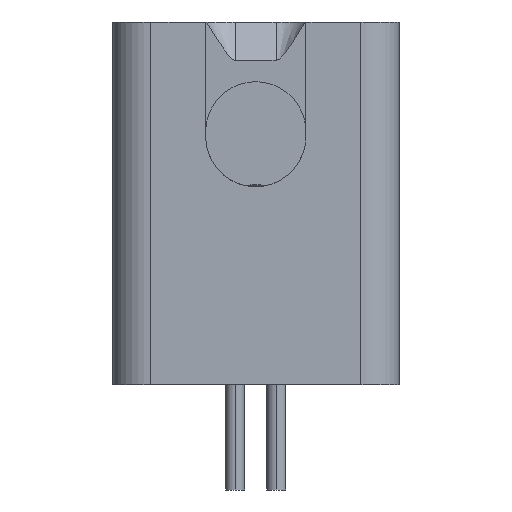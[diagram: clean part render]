
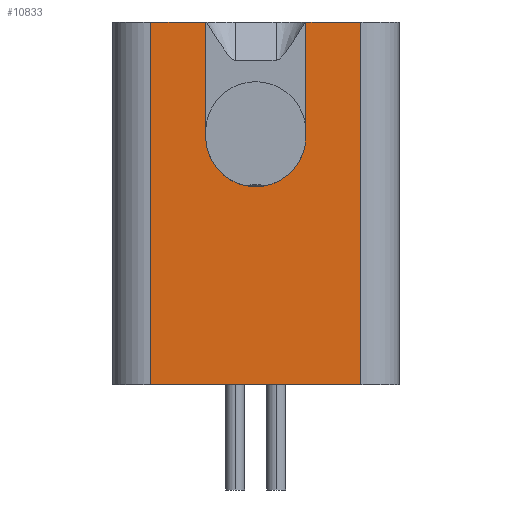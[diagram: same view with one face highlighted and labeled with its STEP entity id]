
A CAD part, left-side view. The second image highlights one B-rep face of the part: STEP entity #10833.
In plain terms, the highlighted planar face has unit normal (-1, 0, 0).
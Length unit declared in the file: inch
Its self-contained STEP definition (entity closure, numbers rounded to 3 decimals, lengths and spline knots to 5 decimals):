
#700 = AXIS2_PLACEMENT_3D ( 'NONE', #16254, #8045, #19602 ) ;
#726 = DIRECTION ( 'NONE',  ( 0., 1., 0. ) ) ;
#804 = ORIENTED_EDGE ( 'NONE', *, *, #4705, .T. ) ;
#994 = CARTESIAN_POINT ( 'NONE',  ( -0.3875, -0.0525, 0.115 ) ) ;
#1147 = LINE ( 'NONE', #17124, #18150 ) ;
#1540 = CARTESIAN_POINT ( 'NONE',  ( -0.3875, 0.0525, 0.235 ) ) ;
#1877 = DIRECTION ( 'NONE',  ( 0., 0., -1. ) ) ;
#2048 = CARTESIAN_POINT ( 'NONE',  ( -0.3875, -0.0525, 0.235 ) ) ;
#3738 = VERTEX_POINT ( 'NONE', #11848 ) ;
#3770 = DIRECTION ( 'NONE',  ( 0., 0., 1. ) ) ;
#3772 = AXIS2_PLACEMENT_3D ( 'NONE', #13616, #3775, #15275 ) ;
#3775 = DIRECTION ( 'NONE',  ( 1., 0., 0. ) ) ;
#3777 = ORIENTED_EDGE ( 'NONE', *, *, #14300, .F. ) ;
#4153 = CARTESIAN_POINT ( 'NONE',  ( -0.3875, 0., 0.115 ) ) ;
#4296 = LINE ( 'NONE', #7652, #21309 ) ;
#4312 = CIRCLE ( 'NONE', #3772, 0.0525 ) ;
#4569 = EDGE_CURVE ( 'NONE', #3738, #18195, #6342, .T. ) ;
#4613 = CARTESIAN_POINT ( 'NONE',  ( -0.3875, 0., 0.0625 ) ) ;
#4705 = EDGE_CURVE ( 'NONE', #13181, #13579, #4296, .T. ) ;
#4966 = ORIENTED_EDGE ( 'NONE', *, *, #12881, .T. ) ;
#5252 = AXIS2_PLACEMENT_3D ( 'NONE', #4153, #15646, #5787 ) ;
#5787 = DIRECTION ( 'NONE',  ( 0., 0., 1. ) ) ;
#6342 = LINE ( 'NONE', #9035, #14582 ) ;
#6417 = PLANE ( 'NONE',  #700 ) ;
#6830 = CARTESIAN_POINT ( 'NONE',  ( -0.3875, 0.11, -0.145 ) ) ;
#6833 = ORIENTED_EDGE ( 'NONE', *, *, #19693, .T. ) ;
#6947 = FACE_OUTER_BOUND ( 'NONE', #16285, .T. ) ;
#7315 = VERTEX_POINT ( 'NONE', #4613 ) ;
#7389 = DIRECTION ( 'NONE',  ( 0., 0., -1. ) ) ;
#7652 = CARTESIAN_POINT ( 'NONE',  ( -0.3875, 0.11, 0.235 ) ) ;
#7668 = VERTEX_POINT ( 'NONE', #15866 ) ;
#7723 = CIRCLE ( 'NONE', #5252, 0.0525 ) ;
#7925 = LINE ( 'NONE', #15828, #20582 ) ;
#8045 = DIRECTION ( 'NONE',  ( -1., 0., 0. ) ) ;
#9035 = CARTESIAN_POINT ( 'NONE',  ( -0.3875, -0.11, 0.04 ) ) ;
#9529 = VERTEX_POINT ( 'NONE', #994 ) ;
#9782 = LINE ( 'NONE', #13378, #14170 ) ;
#10016 = ORIENTED_EDGE ( 'NONE', *, *, #16743, .F. ) ;
#10018 = EDGE_CURVE ( 'NONE', #9529, #7315, #7723, .T. ) ;
#10833 = ADVANCED_FACE ( 'NONE', ( #6947 ), #6417, .T. ) ;
#11418 = EDGE_CURVE ( 'NONE', #18195, #14155, #7925, .T. ) ;
#11589 = VERTEX_POINT ( 'NONE', #17915 ) ;
#11848 = CARTESIAN_POINT ( 'NONE',  ( -0.3875, -0.11, 0.235 ) ) ;
#12598 = ORIENTED_EDGE ( 'NONE', *, *, #10018, .T. ) ;
#12881 = EDGE_CURVE ( 'NONE', #7315, #11589, #4312, .T. ) ;
#12922 = LINE ( 'NONE', #2048, #16791 ) ;
#13181 = VERTEX_POINT ( 'NONE', #1540 ) ;
#13378 = CARTESIAN_POINT ( 'NONE',  ( -0.3875, 0.11, 0.04 ) ) ;
#13579 = VERTEX_POINT ( 'NONE', #15598 ) ;
#13616 = CARTESIAN_POINT ( 'NONE',  ( -0.3875, 0., 0.115 ) ) ;
#13711 = ORIENTED_EDGE ( 'NONE', *, *, #11418, .F. ) ;
#13937 = CARTESIAN_POINT ( 'NONE',  ( -0.3875, 0.0525, 0.235 ) ) ;
#14155 = VERTEX_POINT ( 'NONE', #6830 ) ;
#14170 = VECTOR ( 'NONE', #1877, 39.37008 ) ;
#14287 = DIRECTION ( 'NONE',  ( 0., 1., 0. ) ) ;
#14300 = EDGE_CURVE ( 'NONE', #13181, #11589, #16628, .T. ) ;
#14582 = VECTOR ( 'NONE', #7389, 39.37008 ) ;
#15275 = DIRECTION ( 'NONE',  ( 0., 0., 1. ) ) ;
#15454 = EDGE_CURVE ( 'NONE', #3738, #7668, #1147, .T. ) ;
#15586 = DIRECTION ( 'NONE',  ( 0., 0., -1. ) ) ;
#15598 = CARTESIAN_POINT ( 'NONE',  ( -0.3875, 0.11, 0.235 ) ) ;
#15646 = DIRECTION ( 'NONE',  ( 1., 0., 0. ) ) ;
#15828 = CARTESIAN_POINT ( 'NONE',  ( -0.3875, -0.11, -0.145 ) ) ;
#15866 = CARTESIAN_POINT ( 'NONE',  ( -0.3875, -0.0525, 0.235 ) ) ;
#16254 = CARTESIAN_POINT ( 'NONE',  ( -0.3875, -0.11, 0.04 ) ) ;
#16285 = EDGE_LOOP ( 'NONE', ( #10016, #12598, #4966, #3777, #804, #6833, #13711, #17296, #20522 ) ) ;
#16628 = LINE ( 'NONE', #13937, #21035 ) ;
#16743 = EDGE_CURVE ( 'NONE', #9529, #7668, #12922, .T. ) ;
#16791 = VECTOR ( 'NONE', #3770, 39.37008 ) ;
#17124 = CARTESIAN_POINT ( 'NONE',  ( -0.3875, 0.11, 0.235 ) ) ;
#17296 = ORIENTED_EDGE ( 'NONE', *, *, #4569, .F. ) ;
#17557 = DIRECTION ( 'NONE',  ( 0., 1., 0. ) ) ;
#17915 = CARTESIAN_POINT ( 'NONE',  ( -0.3875, 0.0525, 0.115 ) ) ;
#18150 = VECTOR ( 'NONE', #726, 39.37008 ) ;
#18195 = VERTEX_POINT ( 'NONE', #20535 ) ;
#19602 = DIRECTION ( 'NONE',  ( 0., 0., 1. ) ) ;
#19693 = EDGE_CURVE ( 'NONE', #13579, #14155, #9782, .T. ) ;
#20522 = ORIENTED_EDGE ( 'NONE', *, *, #15454, .T. ) ;
#20535 = CARTESIAN_POINT ( 'NONE',  ( -0.3875, -0.11, -0.145 ) ) ;
#20582 = VECTOR ( 'NONE', #17557, 39.37008 ) ;
#21035 = VECTOR ( 'NONE', #15586, 39.37008 ) ;
#21309 = VECTOR ( 'NONE', #14287, 39.37008 ) ;
